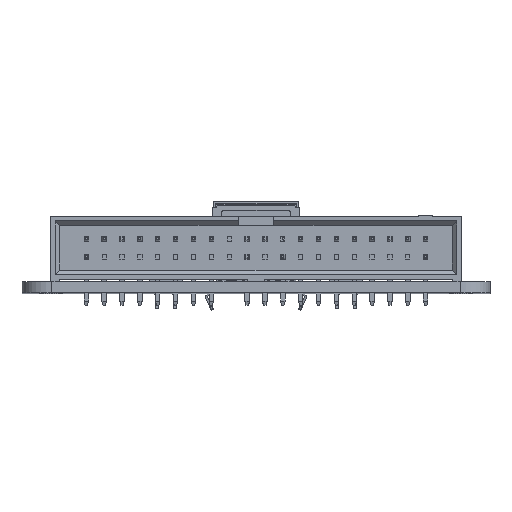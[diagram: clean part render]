
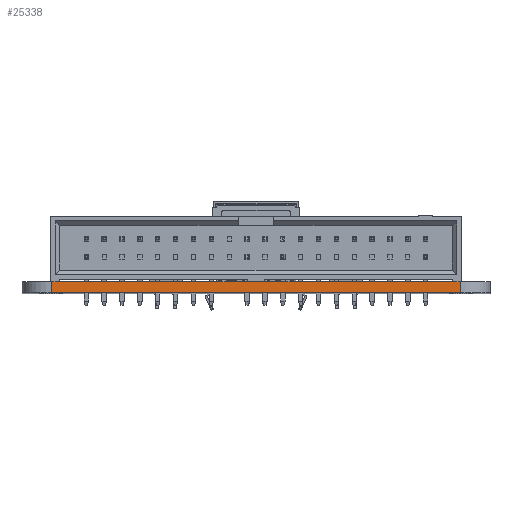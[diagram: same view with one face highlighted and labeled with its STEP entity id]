
A CAD part, top view. The second image highlights one B-rep face of the part: STEP entity #25338.
In plain terms, the highlighted planar face has unit normal (0, 0, 1).
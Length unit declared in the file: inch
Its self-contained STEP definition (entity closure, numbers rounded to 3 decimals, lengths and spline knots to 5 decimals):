
#59=DIRECTION('',(1.,0.,0.));
#60=VECTOR('',#59,2.295);
#61=CARTESIAN_POINT('',(0.1625,0.,0.));
#62=LINE('',#61,#60);
#742=DIRECTION('',(-1.,0.,0.));
#743=VECTOR('',#742,0.0475);
#744=CARTESIAN_POINT('',(2.4575,0.062,0.));
#745=LINE('',#744,#743);
#746=DIRECTION('',(0.,-1.,0.));
#747=VECTOR('',#746,0.062);
#748=CARTESIAN_POINT('',(2.4575,0.062,0.));
#749=LINE('',#748,#747);
#750=DIRECTION('',(0.,-1.,0.));
#751=VECTOR('',#750,0.062);
#752=CARTESIAN_POINT('',(0.1625,0.062,0.));
#753=LINE('',#752,#751);
#754=DIRECTION('',(1.,0.,0.));
#755=VECTOR('',#754,0.0475);
#756=CARTESIAN_POINT('',(0.1625,0.062,0.));
#757=LINE('',#756,#755);
#758=DIRECTION('',(1.,0.,0.));
#759=VECTOR('',#758,0.1);
#760=CARTESIAN_POINT('',(1.26,0.062,0.));
#761=LINE('',#760,#759);
#795=DIRECTION('',(1.,0.,0.));
#796=VECTOR('',#795,1.05);
#797=CARTESIAN_POINT('',(1.36,0.062,0.));
#798=LINE('',#797,#796);
#811=DIRECTION('',(1.,0.,0.));
#812=VECTOR('',#811,1.05);
#813=CARTESIAN_POINT('',(0.21,0.062,0.));
#814=LINE('',#813,#812);
#19393=CARTESIAN_POINT('',(0.1625,0.,0.));
#19394=CARTESIAN_POINT('',(2.4575,0.,0.));
#19395=VERTEX_POINT('',#19393);
#19396=VERTEX_POINT('',#19394);
#22840=CARTESIAN_POINT('',(2.41,0.062,0.));
#22841=VERTEX_POINT('',#22840);
#22842=CARTESIAN_POINT('',(1.36,0.062,0.));
#22844=VERTEX_POINT('',#22842);
#22846=CARTESIAN_POINT('',(1.26,0.062,0.));
#22848=VERTEX_POINT('',#22846);
#22850=CARTESIAN_POINT('',(0.21,0.062,0.));
#22851=VERTEX_POINT('',#22850);
#22852=CARTESIAN_POINT('',(2.4575,0.062,0.));
#22853=VERTEX_POINT('',#22852);
#22854=CARTESIAN_POINT('',(0.1625,0.062,0.));
#22855=VERTEX_POINT('',#22854);
#25318=CARTESIAN_POINT('',(0.,0.,0.));
#25319=DIRECTION('',(0.,0.,1.));
#25320=DIRECTION('',(1.,0.,0.));
#25321=AXIS2_PLACEMENT_3D('',#25318,#25319,#25320);
#25322=PLANE('',#25321);
#25323=ORIENTED_EDGE('',*,*,#25306,.F.);
#25324=ORIENTED_EDGE('',*,*,#25296,.T.);
#25325=ORIENTED_EDGE('',*,*,#24843,.F.);
#25327=ORIENTED_EDGE('',*,*,#25326,.F.);
#25329=ORIENTED_EDGE('',*,*,#25328,.T.);
#25331=ORIENTED_EDGE('',*,*,#25330,.T.);
#25333=ORIENTED_EDGE('',*,*,#25332,.T.);
#25335=ORIENTED_EDGE('',*,*,#25334,.T.);
#25336=EDGE_LOOP('',(#25323,#25324,#25325,#25327,#25329,#25331,#25333,#25335));
#25337=FACE_OUTER_BOUND('',#25336,.F.);
#25338=ADVANCED_FACE('',(#25337),#25322,.T.);
#24843=EDGE_CURVE('',#19395,#19396,#62,.T.);
#25296=EDGE_CURVE('',#22853,#19396,#749,.T.);
#25306=EDGE_CURVE('',#22853,#22841,#745,.T.);
#25326=EDGE_CURVE('',#22855,#19395,#753,.T.);
#25328=EDGE_CURVE('',#22855,#22851,#757,.T.);
#25330=EDGE_CURVE('',#22851,#22848,#814,.T.);
#25332=EDGE_CURVE('',#22848,#22844,#761,.T.);
#25334=EDGE_CURVE('',#22844,#22841,#798,.T.);
